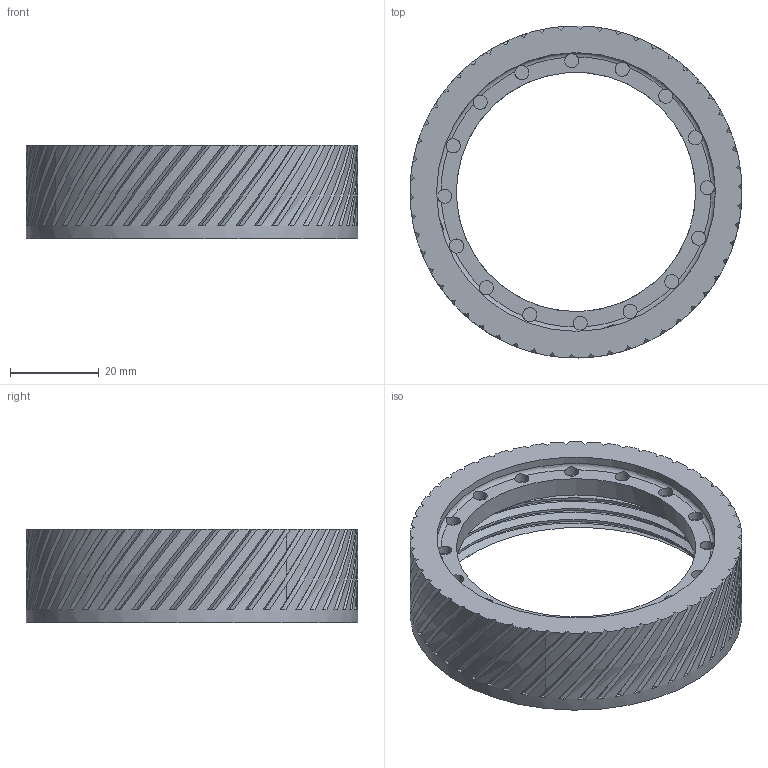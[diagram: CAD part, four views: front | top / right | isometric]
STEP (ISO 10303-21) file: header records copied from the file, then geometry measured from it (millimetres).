
FILE_DESCRIPTION(/* description */ ('STEP AP242','CAx-IF Rec.Pracs.---Representation and Presentation of Product Manufacturing Information (PMI)---4.0---2014-10-13','CAx-IF Rec.Pracs.---3D Tessellated Geometry---0.4---2014-09-14','2;1'),/* implementation_level */ '2;1');
FILE_NAME(/* name */ '64691f6ccac4670533c1ef8b',/* time_stamp */ '2023-05-20T19:28:45Z',/* author */ (''),/* organization */ (''),/* preprocessor_version */ 'ST-DEVELOPER v19.4',/* originating_system */ ' ',/* authorisation */ ' ');
FILE_SCHEMA (('AP242_MANAGED_MODEL_BASED_3D_ENGINEERING_MIM_LF { 1 0 10303 442 1 1 4 }'));
Length unit declared in the file: metre
Products named in the file (1): Base 26mm Magnet NoLug
Bounding box: 74.9 x 74.9 x 21.2 mm (x, y, z)
Volume: 25827.3 mm3; surface area: 15368.7 mm2
Topology: 1 solids, 1 shells, 260 faces, 763 edges, 509 vertices
Faces by surface type: bspline 152, plane 80, cylinder 23, cone 4, torus 1
Full cylindrical faces by diameter (mm): 3.2 x16, 54 x1, 62.9 x1, 74.9 x1
Entity records: 15028 total; most frequent: CARTESIAN_POINT 9948, ORIENTED_EDGE 1426, EDGE_CURVE 713, DIRECTION 589, VERTEX_POINT 483, B_SPLINE_CURVE_WITH_KNOTS 339, EDGE_LOOP 284, FACE_BOUND 284
